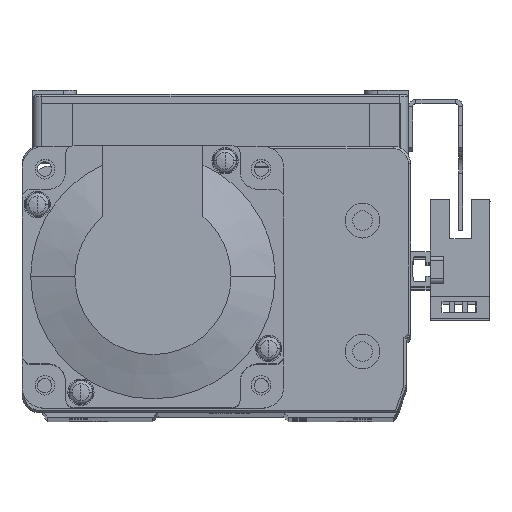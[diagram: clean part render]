
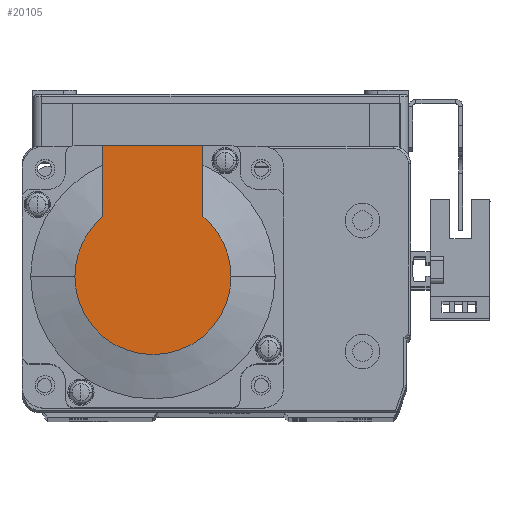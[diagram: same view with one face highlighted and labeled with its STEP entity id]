
A CAD part, top view. The second image highlights one B-rep face of the part: STEP entity #20105.
In plain terms, the highlighted planar face has unit normal (0, 0, 1) as drawn and (-1, 0, 0) by its records, which use the part's own axes.
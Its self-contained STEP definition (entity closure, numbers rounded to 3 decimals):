
#315 = AXIS2_PLACEMENT_3D ( 'NONE', #27491, #27517, #27486 ) ;
#13713 = ORIENTED_EDGE ( 'NONE', *, *, #21949, .F. ) ;
#13716 = ORIENTED_EDGE ( 'NONE', *, *, #22042, .T. ) ;
#13717 = ORIENTED_EDGE ( 'NONE', *, *, #21717, .T. ) ;
#13725 = ORIENTED_EDGE ( 'NONE', *, *, #21628, .T. ) ;
#13761 = ORIENTED_EDGE ( 'NONE', *, *, #21897, .T. ) ;
#13762 = ORIENTED_EDGE ( 'NONE', *, *, #21965, .F. ) ;
#20105 = ADVANCED_FACE ( 'NONE', ( #28062 ), #27488, .T. ) ;
#21628 = EDGE_CURVE ( 'NONE', #24042, #24110, #41165, .T. ) ;
#21717 = EDGE_CURVE ( 'NONE', #24104, #24042, #41316, .T. ) ;
#21897 = EDGE_CURVE ( 'NONE', #24301, #24104, #41644, .T. ) ;
#21949 = EDGE_CURVE ( 'NONE', #24296, #24110, #41726, .T. ) ;
#21965 = EDGE_CURVE ( 'NONE', #24306, #24296, #41761, .T. ) ;
#22042 = EDGE_CURVE ( 'NONE', #24306, #24301, #41881, .T. ) ;
#23806 = EDGE_LOOP ( 'NONE', ( #13716, #13761, #13717, #13725, #13713, #13762 ) ) ;
#24042 = VERTEX_POINT ( 'NONE', #45120 ) ;
#24104 = VERTEX_POINT ( 'NONE', #45175 ) ;
#24110 = VERTEX_POINT ( 'NONE', #45202 ) ;
#24296 = VERTEX_POINT ( 'NONE', #45413 ) ;
#24301 = VERTEX_POINT ( 'NONE', #45394 ) ;
#24306 = VERTEX_POINT ( 'NONE', #45397 ) ;
#27486 = DIRECTION ( 'NONE',  ( 0., 0., 1. ) ) ;
#27488 = PLANE ( 'NONE',  #315 ) ;
#27491 = CARTESIAN_POINT ( 'NONE',  ( -99., -8.941, 0. ) ) ;
#27517 = DIRECTION ( 'NONE',  ( -1., 0., 0. ) ) ;
#28062 = FACE_OUTER_BOUND ( 'NONE', #23806, .T. ) ;
#30233 = CARTESIAN_POINT ( 'NONE',  ( -99., 0., 0. ) ) ;
#30235 = DIRECTION ( 'NONE',  ( -1., 0., 0. ) ) ;
#30239 = DIRECTION ( 'NONE',  ( 0., 0., -1. ) ) ;
#30728 = DIRECTION ( 'NONE',  ( 0., 0., -1. ) ) ;
#30770 = DIRECTION ( 'NONE',  ( -1., 0., 0. ) ) ;
#30794 = CARTESIAN_POINT ( 'NONE',  ( -99., 0., 0. ) ) ;
#31484 = DIRECTION ( 'NONE',  ( -1., 0., 0. ) ) ;
#31486 = DIRECTION ( 'NONE',  ( 0., 0., -1. ) ) ;
#31567 = CARTESIAN_POINT ( 'NONE',  ( -99., 0., 0. ) ) ;
#31666 = DIRECTION ( 'NONE',  ( 0., -1., 0. ) ) ;
#31680 = CARTESIAN_POINT ( 'NONE',  ( -99., 0., 11.45 ) ) ;
#31700 = DIRECTION ( 'NONE',  ( 0., 0., 1. ) ) ;
#31702 = CARTESIAN_POINT ( 'NONE',  ( -99., 30., 25. ) ) ;
#31909 = CARTESIAN_POINT ( 'NONE',  ( -99., -8.941, -11.45 ) ) ;
#31925 = DIRECTION ( 'NONE',  ( 0., -1., 0. ) ) ;
#39650 = AXIS2_PLACEMENT_3D ( 'NONE', #30233, #30235, #30239 ) ;
#39702 = AXIS2_PLACEMENT_3D ( 'NONE', #30794, #30770, #30728 ) ;
#39708 = AXIS2_PLACEMENT_3D ( 'NONE', #31567, #31484, #31486 ) ;
#41165 = CIRCLE ( 'NONE', #39650, 17.881 ) ;
#41316 = CIRCLE ( 'NONE', #39702, 17.881 ) ;
#41644 = CIRCLE ( 'NONE', #39708, 17.881 ) ;
#41726 = LINE ( 'NONE', #31680, #41763 ) ;
#41746 = VECTOR ( 'NONE', #31700, 1000. ) ;
#41761 = LINE ( 'NONE', #31702, #41746 ) ;
#41763 = VECTOR ( 'NONE', #31666, 1000. ) ;
#41875 = VECTOR ( 'NONE', #31925, 1000. ) ;
#41881 = LINE ( 'NONE', #31909, #41875 ) ;
#45120 = CARTESIAN_POINT ( 'NONE',  ( -99., 0., 17.881 ) ) ;
#45175 = CARTESIAN_POINT ( 'NONE',  ( -99., 0., -17.881 ) ) ;
#45202 = CARTESIAN_POINT ( 'NONE',  ( -99., 13.735, 11.45 ) ) ;
#45394 = CARTESIAN_POINT ( 'NONE',  ( -99., 13.735, -11.45 ) ) ;
#45397 = CARTESIAN_POINT ( 'NONE',  ( -99., 30., -11.45 ) ) ;
#45413 = CARTESIAN_POINT ( 'NONE',  ( -99., 30., 11.45 ) ) ;
